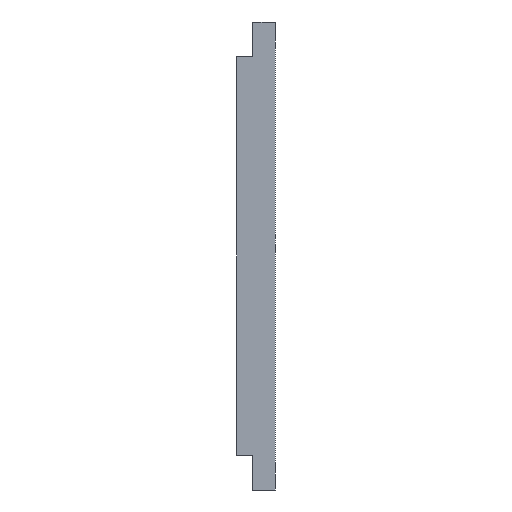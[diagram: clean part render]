
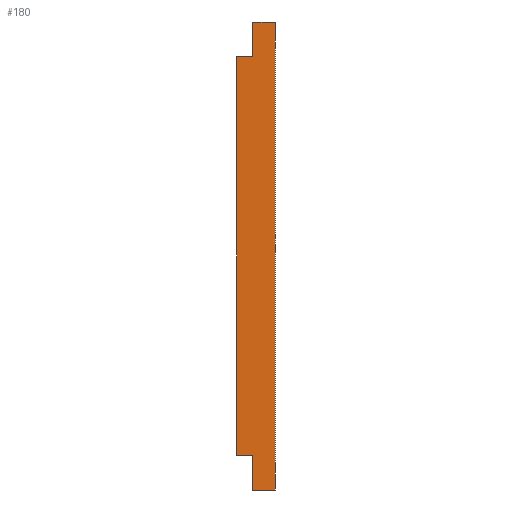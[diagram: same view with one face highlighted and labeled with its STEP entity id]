
A CAD part, left-side view. The second image highlights one B-rep face of the part: STEP entity #180.
In plain terms, the highlighted planar face has unit normal (-1, 0, 0).
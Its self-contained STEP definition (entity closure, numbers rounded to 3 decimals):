
#18 = VECTOR ( 'NONE', #416, 1000. ) ;
#147 = VERTEX_POINT ( 'NONE', #298 ) ;
#160 = EDGE_LOOP ( 'NONE', ( #2336, #1930, #2375, #1707, #800, #763, #2508, #448 ) ) ;
#168 = VECTOR ( 'NONE', #399, 1000. ) ;
#180 = ADVANCED_FACE ( 'NONE', ( #498 ), #873, .F. ) ;
#297 = VERTEX_POINT ( 'NONE', #1197 ) ;
#298 = CARTESIAN_POINT ( 'NONE',  ( -100., 6., -62.5 ) ) ;
#323 = LINE ( 'NONE', #2171, #807 ) ;
#374 = VECTOR ( 'NONE', #555, 1000. ) ;
#381 = LINE ( 'NONE', #1401, #18 ) ;
#399 = DIRECTION ( 'NONE',  ( 0., -1., 0. ) ) ;
#416 = DIRECTION ( 'NONE',  ( 0., 0., 1. ) ) ;
#441 = EDGE_CURVE ( 'NONE', #916, #646, #2519, .T. ) ;
#448 = ORIENTED_EDGE ( 'NONE', *, *, #1441, .T. ) ;
#457 = CARTESIAN_POINT ( 'NONE',  ( -100., 10.3, -53.2 ) ) ;
#470 = CARTESIAN_POINT ( 'NONE',  ( -100., 6., 62.5 ) ) ;
#498 = FACE_OUTER_BOUND ( 'NONE', #160, .T. ) ;
#523 = EDGE_CURVE ( 'NONE', #2019, #297, #2443, .T. ) ;
#555 = DIRECTION ( 'NONE',  ( 0., -1., 0. ) ) ;
#605 = CARTESIAN_POINT ( 'NONE',  ( -100., 6., 62.5 ) ) ;
#646 = VERTEX_POINT ( 'NONE', #971 ) ;
#653 = VERTEX_POINT ( 'NONE', #1187 ) ;
#704 = EDGE_CURVE ( 'NONE', #297, #653, #381, .T. ) ;
#763 = ORIENTED_EDGE ( 'NONE', *, *, #441, .T. ) ;
#800 = ORIENTED_EDGE ( 'NONE', *, *, #1338, .F. ) ;
#807 = VECTOR ( 'NONE', #1389, 1000. ) ;
#831 = DIRECTION ( 'NONE',  ( 0., 0., 1. ) ) ;
#838 = VERTEX_POINT ( 'NONE', #2480 ) ;
#873 = PLANE ( 'NONE',  #1981 ) ;
#883 = CARTESIAN_POINT ( 'NONE',  ( -100., 6., -62.5 ) ) ;
#893 = LINE ( 'NONE', #2060, #2573 ) ;
#916 = VERTEX_POINT ( 'NONE', #457 ) ;
#971 = CARTESIAN_POINT ( 'NONE',  ( -100., 6., -53.2 ) ) ;
#977 = DIRECTION ( 'NONE',  ( 0., -1., 0. ) ) ;
#1008 = VECTOR ( 'NONE', #977, 1000. ) ;
#1187 = CARTESIAN_POINT ( 'NONE',  ( -100., 6., 62.5 ) ) ;
#1197 = CARTESIAN_POINT ( 'NONE',  ( -100., 6., 53.2 ) ) ;
#1237 = CARTESIAN_POINT ( 'NONE',  ( -100., 10.3, 53.2 ) ) ;
#1260 = EDGE_CURVE ( 'NONE', #653, #1741, #1376, .T. ) ;
#1338 = EDGE_CURVE ( 'NONE', #916, #2019, #893, .T. ) ;
#1355 = CARTESIAN_POINT ( 'NONE',  ( -100., 0., 62.5 ) ) ;
#1376 = LINE ( 'NONE', #605, #168 ) ;
#1389 = DIRECTION ( 'NONE',  ( 0., 0., 1. ) ) ;
#1401 = CARTESIAN_POINT ( 'NONE',  ( -100., 6., 62.5 ) ) ;
#1441 = EDGE_CURVE ( 'NONE', #147, #838, #2056, .T. ) ;
#1478 = VECTOR ( 'NONE', #2239, 1000. ) ;
#1482 = DIRECTION ( 'NONE',  ( 0., -1., 0. ) ) ;
#1483 = DIRECTION ( 'NONE',  ( 1., 0., 0. ) ) ;
#1506 = LINE ( 'NONE', #2218, #1478 ) ;
#1524 = VECTOR ( 'NONE', #1482, 1000. ) ;
#1707 = ORIENTED_EDGE ( 'NONE', *, *, #523, .F. ) ;
#1741 = VERTEX_POINT ( 'NONE', #1355 ) ;
#1754 = EDGE_CURVE ( 'NONE', #838, #1741, #323, .T. ) ;
#1930 = ORIENTED_EDGE ( 'NONE', *, *, #1260, .F. ) ;
#1981 = AXIS2_PLACEMENT_3D ( 'NONE', #470, #1483, #2101 ) ;
#1992 = CARTESIAN_POINT ( 'NONE',  ( -100., 10.3, 53.2 ) ) ;
#2019 = VERTEX_POINT ( 'NONE', #1237 ) ;
#2056 = LINE ( 'NONE', #883, #1524 ) ;
#2060 = CARTESIAN_POINT ( 'NONE',  ( -100., 10.3, 53.2 ) ) ;
#2101 = DIRECTION ( 'NONE',  ( 0., 0., -1. ) ) ;
#2171 = CARTESIAN_POINT ( 'NONE',  ( -100., 0., 62.5 ) ) ;
#2192 = CARTESIAN_POINT ( 'NONE',  ( -100., 10.3, -53.2 ) ) ;
#2218 = CARTESIAN_POINT ( 'NONE',  ( -100., 6., 62.5 ) ) ;
#2239 = DIRECTION ( 'NONE',  ( 0., 0., 1. ) ) ;
#2336 = ORIENTED_EDGE ( 'NONE', *, *, #1754, .T. ) ;
#2375 = ORIENTED_EDGE ( 'NONE', *, *, #704, .F. ) ;
#2443 = LINE ( 'NONE', #1992, #1008 ) ;
#2480 = CARTESIAN_POINT ( 'NONE',  ( -100., 0., -62.5 ) ) ;
#2508 = ORIENTED_EDGE ( 'NONE', *, *, #2541, .F. ) ;
#2519 = LINE ( 'NONE', #2192, #374 ) ;
#2541 = EDGE_CURVE ( 'NONE', #147, #646, #1506, .T. ) ;
#2573 = VECTOR ( 'NONE', #831, 1000. ) ;
